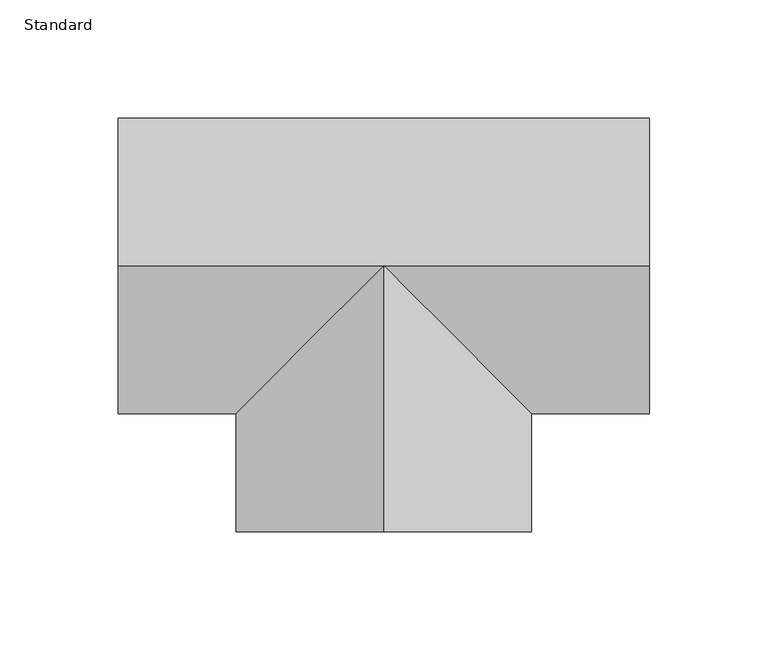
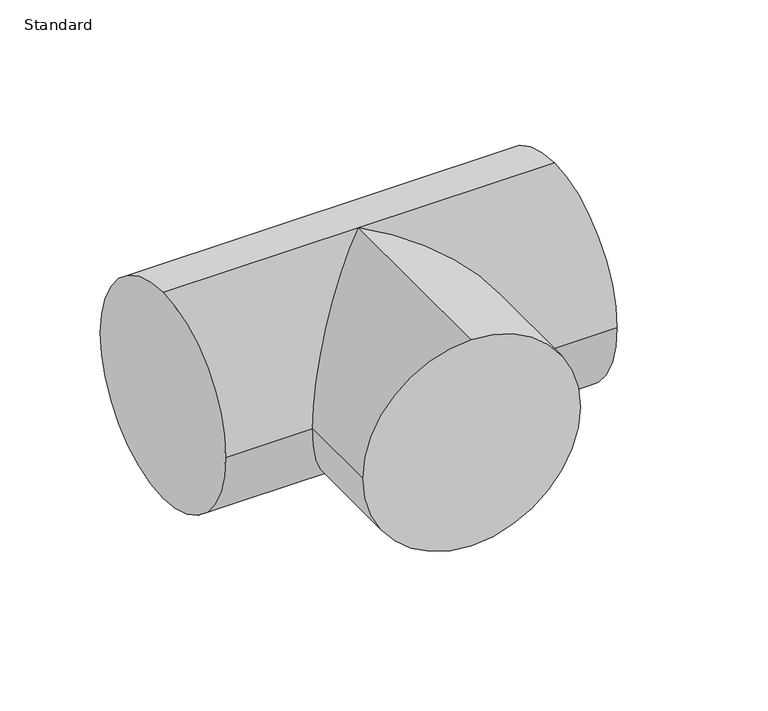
"""IFC4 building model written with IfcOpenShell, lengths in millimetres: duct fitting geometry, Té circulaire : Standard."""

import ifcopenshell
import ifcopenshell.guid

model = None  # the IFC model being written
_history = None  # IfcOwnerHistory: only IFC2X3 demands one
_inside = {}  # id of a spatial element -> (the spatial element, [elements in it])
_under = {}  # id of a project, library or spatial element -> (it, [spatial elements below it])
_declared = {}  # id of a project -> (the project, [libraries it declares])
_typed = {}  # id of a type object -> (the type object, [elements of that type])
_made_of = {}  # id of a material, layer set ... -> (it, [elements and type objects made of it])


def new_model(schema):
    """Start an empty IFC model of exactly this schema.

    Asked for "IFC4X3", IfcOpenShell would pick the latest addendum, in which some entities
    have other attributes; the version numbers below select the first issue.
    IFC2X3 requires an IfcOwnerHistory on every rooted entity: one is made here for all.
    """
    global model, _history
    if schema == "IFC4X3":
        model = ifcopenshell.file(schema_version=(4, 3, 0, 0))
    else:
        model = ifcopenshell.file(schema=schema)
    _inside.clear()
    _under.clear()
    _declared.clear()
    _typed.clear()
    _made_of.clear()
    _history = None
    if model.schema == "IFC2X3":
        org = make("IfcOrganization", Name="unknown")
        user = make(
            "IfcPersonAndOrganization",
            ThePerson=make("IfcPerson", FamilyName="unknown"),
            TheOrganization=org,
        )
        app = make(
            "IfcApplication",
            ApplicationDeveloper=org,
            Version="unknown",
            ApplicationFullName="unknown",
            ApplicationIdentifier="unknown",
        )
        _history = make(
            "IfcOwnerHistory",
            OwningUser=user,
            OwningApplication=app,
            ChangeAction="ADDED",
            CreationDate=0,
        )
    return model


def make(cls, **values):
    """One entity of the class cls with the attributes given. An attribute that is None is left unset."""
    return model.create_entity(
        cls, **{name: value for name, value in values.items() if value is not None}
    )


def rooted(cls, **values):
    """An entity with a GlobalId (a new one), such as an element, a storey or a relation."""
    return make(cls, GlobalId=ifcopenshell.guid.new(), OwnerHistory=_history, **values)


def si_unit(unit_type, name, prefix=None):
    """IfcSIUnit, for example si_unit("LENGTHUNIT", "METRE", prefix="MILLI")."""
    return make("IfcSIUnit", UnitType=unit_type, Prefix=prefix, Name=name)


def assignment(units):
    """IfcUnitAssignment: the units of a project."""
    return None if units is None else make("IfcUnitAssignment", Units=units)


def point(xyz):
    """IfcCartesianPoint."""
    return None if xyz is None else make("IfcCartesianPoint", Coordinates=xyz)


def direction(xyz):
    """IfcDirection."""
    return None if xyz is None else make("IfcDirection", DirectionRatios=xyz)


def frame(location, z_axis=None, x_axis=None):
    """IfcAxis2Placement3D, a coordinate frame: its origin and axes. An axis left out is left unset."""
    return make(
        "IfcAxis2Placement3D",
        Location=point(location),
        Axis=direction(z_axis),
        RefDirection=direction(x_axis),
    )


def origin():
    """The frame at (0, 0, 0) with its axes left unset."""
    return frame((0.0, 0.0, 0.0))


def place(relative_to, where):
    """IfcLocalPlacement: puts the frame where relative to a parent placement (None: the world)."""
    return make(
        "IfcLocalPlacement", PlacementRelTo=relative_to, RelativePlacement=where
    )


def context(
    kind, dimensions, precision=None, world=None, true_north=None, identifier=None
):
    """IfcGeometricRepresentationContext, for example the 3D "Model" context."""
    return make(
        "IfcGeometricRepresentationContext",
        ContextIdentifier=identifier,
        ContextType=kind,
        CoordinateSpaceDimension=dimensions,
        Precision=precision,
        WorldCoordinateSystem=world,
        TrueNorth=true_north,
    )


def project(units=None, contexts=None):
    """IfcProject with its units and contexts."""
    return rooted(
        "IfcProject",
        Name="project",
        RepresentationContexts=contexts,
        UnitsInContext=assignment(units),
    )


def spatial(cls, under=None, at=None, **own):
    """A site, building, storey or space (cls), placed at a placement, below another one or the project."""
    s = rooted(cls, ObjectPlacement=at, **own)
    if under is not None:
        _under.setdefault(under.id(), (under, []))[1].append(s)
    return s


def circle_curve(where, radius):
    """IfcCircle in the frame where."""
    return make("IfcCircle", Position=where, Radius=radius)


def ellipse_curve(where, semi_axis1, semi_axis2):
    """IfcEllipse in the frame where."""
    return make(
        "IfcEllipse", Position=where, SemiAxis1=semi_axis1, SemiAxis2=semi_axis2
    )


def shape(context_of_items, identifier, shape_type, items):
    """IfcShapeRepresentation: the items that make up one representation, for example the "Body"."""
    return make(
        "IfcShapeRepresentation",
        ContextOfItems=context_of_items,
        RepresentationIdentifier=identifier,
        RepresentationType=shape_type,
        Items=items,
    )


def source(mapping_origin, context_of_items, identifier, shape_type, items):
    """IfcRepresentationMap: a shape defined once, which mapped items show again and again."""
    return make(
        "IfcRepresentationMap",
        MappingOrigin=mapping_origin,
        MappedRepresentation=shape(context_of_items, identifier, shape_type, items),
    )


def transform(
    local_origin,
    x_axis=None,
    y_axis=None,
    z_axis=None,
    scale=None,
    scale2=None,
    scale3=None,
    uniform=True,
):
    """IfcCartesianTransformationOperator3D, or its non-uniform kind. x_axis, y_axis, z_axis: its Axis1, 2, 3."""
    if uniform:
        return make(
            "IfcCartesianTransformationOperator3D",
            Axis1=direction(x_axis),
            Axis2=direction(y_axis),
            LocalOrigin=point(local_origin),
            Scale=scale,
            Axis3=direction(z_axis),
        )
    return make(
        "IfcCartesianTransformationOperator3DnonUniform",
        Axis1=direction(x_axis),
        Axis2=direction(y_axis),
        LocalOrigin=point(local_origin),
        Scale=scale,
        Axis3=direction(z_axis),
        Scale2=scale2,
        Scale3=scale3,
    )


def mapped(mapping_source, mapping_target):
    """IfcMappedItem: shows the shape of a source again, moved by a transform."""
    return make(
        "IfcMappedItem", MappingSource=mapping_source, MappingTarget=mapping_target
    )


def made_of(thing, what):
    """Note that an element or type object is made of a material, layer set ...; save() writes the relation."""
    if what is not None:
        _made_of.setdefault(what.id(), (what, []))[1].append(thing)
    return thing


def element(
    cls,
    number,
    at=None,
    inside=None,
    cuts=None,
    type_object=None,
    material=None,
    context=None,
    identifier="Body",
    shape_type=None,
    held_by="IfcProductDefinitionShape",
    body=None,
    shapes=None,
    **own,
):
    """One element of the class cls, such as IfcWall. Its Tag is "e" and its number.

    at: its placement. inside: the storey or other place that contains it. cuts: it is an
    opening in that element (IfcRelVoidsElement). A single representation is given by context,
    identifier, shape_type and body (its items); several are given by shapes. held_by: the class
    of the entity that holds the representations. save() writes the other relations.
    """
    e = rooted(cls, Tag="e%d" % number, ObjectPlacement=at, **own)
    if body is not None:
        shapes = [shape(context, identifier, shape_type, body)]
    if shapes is not None:
        e.Representation = make(held_by, Representations=shapes)
    if inside is not None:
        _inside.setdefault(inside.id(), (inside, []))[1].append(e)
    if cuts is not None:
        rooted(
            "IfcRelVoidsElement", RelatingBuildingElement=cuts, RelatedOpeningElement=e
        )
    if type_object is not None:
        _typed.setdefault(type_object.id(), (type_object, []))[1].append(e)
    return made_of(e, material)


def aggregate(whole, parts):
    """IfcRelAggregates: a whole, such as a stair, and the parts it consists of."""
    return rooted("IfcRelAggregates", RelatingObject=whole, RelatedObjects=parts)


def save(model, path):
    """Write the relations noted so far, then the file.

    IfcRelAggregates (storeys below a building ...), IfcRelContainedInSpatialStructure (elements
    in a storey), IfcRelDefinesByType, IfcRelAssociatesMaterial and IfcRelDeclares: one each for
    every whole, place, type object, material and project.
    """
    for whole, parts in _under.values():
        aggregate(whole, parts)
    for where, things in _inside.values():
        rooted(
            "IfcRelContainedInSpatialStructure",
            RelatedElements=things,
            RelatingStructure=where,
        )
    for kind, things in _typed.values():
        rooted("IfcRelDefinesByType", RelatedObjects=things, RelatingType=kind)
    for what, things in _made_of.values():
        rooted("IfcRelAssociatesMaterial", RelatedObjects=things, RelatingMaterial=what)
    for by, libraries in _declared.values():
        rooted("IfcRelDeclares", RelatingContext=by, RelatedDefinitions=libraries)
    model.write(path)


def plane_surface(at):
    """IfcPlane: the flat surface through the origin of the frame at, square to its z axis."""
    return make("IfcPlane", Position=at)


def cylinder_surface(at, radius):
    """IfcCylindricalSurface: all points at the distance radius from the z axis of the frame at."""
    return make("IfcCylindricalSurface", Position=at, Radius=radius)


def advanced_brep(points, edges, surfaces, faces):
    """IfcAdvancedBrep: a solid bounded by faces that lie on surfaces and meet in shared edges.

    An edge is (start, end): straight between two places in points (the first is 0);
    or (start, end, curve); or (start, end, curve, False) where it runs against its curve.
    A face is (place in surfaces, loops), or (place, loops, False) where it looks against
    its surface's normal. A loop lists edges by number (the first is 1), with a minus sign
    where the edge is run from its end to its start. The first loop is the outer one.
    """
    corners = [point(p) for p in points]
    vertices = [make("IfcVertexPoint", VertexGeometry=c) for c in corners]
    made = []
    for start, end, *more in edges:
        made.append(
            make(
                "IfcEdgeCurve",
                EdgeStart=vertices[start],
                EdgeEnd=vertices[end],
                EdgeGeometry=more[0] if more else make("IfcPolyline", Points=[corners[start], corners[end]]),
                SameSense=more[1] if len(more) > 1 else True,
            )
        )
    hull = []
    for where, loops, *sense in faces:
        bounds = []
        for j, loop in enumerate(loops):
            ring = [make("IfcOrientedEdge", EdgeElement=made[abs(k) - 1], Orientation=k > 0) for k in loop]
            bounds.append(
                make(
                    "IfcFaceOuterBound" if j == 0 else "IfcFaceBound",
                    Bound=make("IfcEdgeLoop", EdgeList=ring),
                    Orientation=True,
                )
            )
        hull.append(make("IfcAdvancedFace", Bounds=bounds, FaceSurface=surfaces[where], SameSense=sense[0] if sense else True))
    return make("IfcAdvancedBrep", Outer=make("IfcClosedShell", CfsFaces=hull))


def standard_07d20943(model_context):
    return source(origin(), model_context, "Body", "AdvancedBrep", [
        advanced_brep(
        [(0.0, -112.5, 62.5), (-62.5, -112.5, 0.0), (0.0, -112.5, -62.5), (62.5, -112.5, 0.0), (62.5, -62.5, 0.0), (0.0, 0.0, 62.5), (0.0, 0.0, -62.5), (-62.5, -62.5, 0.0), (-112.5, 0.0, 62.5), (-112.5, 62.5, 0.0), (-112.5, 0.0, -62.5), (-112.5, -62.5, 0.0), (112.5, 0.0, 62.5), (112.5, -62.5, 0.0), (112.5, 0.0, -62.5), (112.5, 62.5, 0.0)],
        [
            (0, 1, circle_curve(frame((0.0, -112.5, 0.0), z_axis=(0.0, -1.0, 0.0), x_axis=(1.0, 0.0, 0.0)), 62.5)),
            (1, 2, circle_curve(frame((0.0, -112.5, 0.0), z_axis=(0.0, -1.0, 0.0), x_axis=(1.0, 0.0, 0.0)), 62.5)),
            (2, 3, circle_curve(frame((0.0, -112.5, 0.0), z_axis=(0.0, -1.0, 0.0), x_axis=(1.0, 0.0, 0.0)), 62.5)),
            (3, 0, circle_curve(frame((0.0, -112.5, 0.0), z_axis=(0.0, -1.0, 0.0), x_axis=(1.0, 0.0, 0.0)), 62.5)),
            (3, 4),
            (4, 5, ellipse_curve(frame((0.0, 0.0, 0.0), z_axis=(-0.7071067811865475, -0.7071067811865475, 0.0), x_axis=(-0.7071067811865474, 0.7071067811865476, 0.0)), 88.3883476, 62.5)),
            (5, 0),
            (2, 6),
            (6, 4, ellipse_curve(frame((0.0, 0.0, 0.0), z_axis=(-0.7071067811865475, -0.7071067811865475, 0.0), x_axis=(-0.7071067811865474, 0.7071067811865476, 0.0)), 88.3883476, 62.5)),
            (1, 7),
            (7, 6, ellipse_curve(frame((0.0, 0.0, 0.0), z_axis=(0.7071067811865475, -0.7071067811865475, 0.0), x_axis=(0.7071067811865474, 0.7071067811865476, 0.0)), 88.3883476, 62.5)),
            (5, 7, ellipse_curve(frame((0.0, 0.0, 0.0), z_axis=(0.7071067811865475, -0.7071067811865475, 0.0), x_axis=(0.7071067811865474, 0.7071067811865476, 0.0)), 88.3883476, 62.5)),
            (8, 9, circle_curve(frame((-112.5, 0.0, 0.0), z_axis=(-1.0, 0.0, 0.0), x_axis=(0.0, 1.0, 0.0)), 62.5)),
            (9, 10, circle_curve(frame((-112.5, 0.0, 0.0), z_axis=(-1.0, 0.0, 0.0), x_axis=(0.0, 1.0, 0.0)), 62.5)),
            (10, 11, circle_curve(frame((-112.5, 0.0, 0.0), z_axis=(-1.0, 0.0, 0.0), x_axis=(0.0, 1.0, 0.0)), 62.5)),
            (11, 8, circle_curve(frame((-112.5, 0.0, 0.0), z_axis=(-1.0, 0.0, 0.0), x_axis=(0.0, 1.0, 0.0)), 62.5)),
            (12, 13, circle_curve(frame((112.5, 0.0, 0.0), z_axis=(1.0, 0.0, 0.0), x_axis=(0.0, 1.0, 0.0)), 62.5)),
            (13, 14, circle_curve(frame((112.5, 0.0, 0.0), z_axis=(1.0, 0.0, 0.0), x_axis=(0.0, 1.0, 0.0)), 62.5)),
            (14, 15, circle_curve(frame((112.5, 0.0, 0.0), z_axis=(1.0, 0.0, 0.0), x_axis=(0.0, 1.0, 0.0)), 62.5)),
            (15, 12, circle_curve(frame((112.5, 0.0, 0.0), z_axis=(1.0, 0.0, 0.0), x_axis=(0.0, 1.0, 0.0)), 62.5)),
            (8, 5),
            (5, 12),
            (15, 9),
            (14, 6),
            (6, 10),
            (7, 11),
            (13, 4),
        ],
        [
            plane_surface(frame((0.0, -112.5, 0.0), z_axis=(0.0, -1.0, 0.0), x_axis=(0.0, 0.0, 1.0))),
            cylinder_surface(frame((0.0, 0.0, 0.0), z_axis=(0.0, 1.0, 0.0), x_axis=(1.0, 0.0, 0.0)), 62.5),
            plane_surface(frame((-112.5, 0.0, 0.0), z_axis=(-1.0, 0.0, 0.0), x_axis=(0.0, 0.0, 1.0))),
            plane_surface(frame((112.5, 0.0, 0.0), z_axis=(1.0, 0.0, 0.0), x_axis=(0.0, 0.0, 1.0))),
            cylinder_surface(frame((-112.5, 0.0, 0.0), z_axis=(-1.0, 0.0, 0.0), x_axis=(0.0, 1.0, 0.0)), 62.5),
        ],
        [
            (0, [[1, 2, 3, 4]]),
            (1, [[-4, 5, 6, 7]]),
            (1, [[-3, 8, 9, -5]]),
            (1, [[-2, 10, 11, -8]]),
            (1, [[-1, -7, 12, -10]]),
            (2, [[13, 14, 15, 16]]),
            (3, [[17, 18, 19, 20]]),
            (4, [[-13, 21, 22, -20, 23]]),
            (4, [[-14, -23, -19, 24, 25]]),
            (4, [[-15, -25, -11, 26]]),
            (4, [[-18, 27, -9, -24]]),
            (4, [[-16, -26, -12, -21]]),
            (4, [[-17, -22, -6, -27]]),
        ],
    ),
    ])


if __name__ == "__main__":
    model = new_model("IFC4")
    model_context = context("Model", 3, world=origin())
    ifc_project = project(units=[si_unit("LENGTHUNIT", "METRE", prefix="MILLI")], contexts=[model_context])
    site = spatial("IfcSite", under=ifc_project)
    building = spatial("IfcBuilding", under=site)
    placement = place(None, origin())
    standard_shape = standard_07d20943(model_context)
    element("IfcDuctFitting", 1, ObjectType="Té circulaire : Standard", at=placement, inside=building, context=model_context, shape_type="MappedRepresentation", body=[
        mapped(standard_shape, transform((0.0, 0.0, 0.0), x_axis=(1.0, 0.0, 0.0), y_axis=(0.0, 1.0, 0.0), z_axis=(0.0, 0.0, 1.0))),
    ])
    save(model, "model.ifc")
